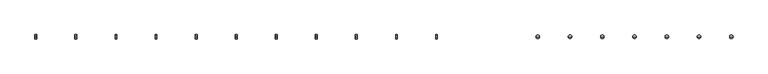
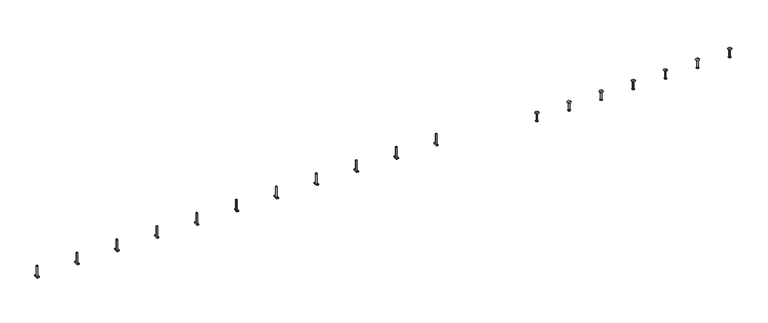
"""IFC4 building model written with IfcOpenShell, lengths in millimetres: fastener geometry, JTA-W JORDAHL® AnchorChannels : JTA-W L=6000 mm."""

from ifc_helpers import new_model, si_unit, frame, origin, place, context, project, spatial, polyline, circle_curve, source, transform, mapped, element, save
from ifc_brep_helpers import plane_surface, cylinder_surface, revolved_surface, advanced_brep


def fastener_fb3cec1f(model_context):
    return source(origin(), model_context, "Body", "AdvancedBrep", [
        advanced_brep(
        [(3468.8421053, 16.25, -3.0), (3468.8421053, -16.25, -3.0), (3468.8421053, -16.25, -11.0), (3468.8421053, 16.25, -11.0), (3454.8421053, 16.25, -3.0), (3454.8421053, 16.25, -11.0), (3454.8421053, -16.25, -11.0), (3454.8421053, -16.25, -3.0), (3466.8421053, 0.0, -3.0), (3456.8421053, 0.0, -3.0), (3456.8421053, 0.0, 77.0), (3466.8421053, 0.0, 77.0)],
        [
            (0, 1),
            (1, 2),
            (2, 3),
            (3, 0),
            (4, 5),
            (5, 6),
            (6, 7),
            (7, 4),
            (0, 4),
            (7, 1),
            (8, 9, circle_curve(frame((3461.8421053, 0.0, -3.0), z_axis=(0.0, 0.0, -1.0), x_axis=(1.0, 0.0, 0.0)), 5.0)),
            (9, 8, circle_curve(frame((3461.8421053, 0.0, -3.0), z_axis=(0.0, 0.0, -1.0), x_axis=(1.0, 0.0, 0.0)), 5.0)),
            (6, 2),
            (5, 3),
            (10, 11, circle_curve(frame((3461.8421053, 0.0, 77.0), z_axis=(0.0, 0.0, 1.0), x_axis=(1.0, 0.0, 0.0)), 5.0)),
            (11, 10, circle_curve(frame((3461.8421053, 0.0, 77.0), z_axis=(0.0, 0.0, 1.0), x_axis=(1.0, 0.0, 0.0)), 5.0)),
            (10, 9),
            (8, 11),
        ],
        [
            plane_surface(frame((3468.8421053, -16.25, -3.0), z_axis=(1.0, 0.0, 0.0), x_axis=(0.0, -1.0, 0.0))),
            plane_surface(frame((3454.8421053, -16.25, -3.0), z_axis=(-1.0, 0.0, 0.0), x_axis=(0.0, 1.0, 0.0))),
            plane_surface(frame((3468.8421053, 16.25, -3.0), z_axis=(0.0, 0.0, 1.0), x_axis=(-1.0, 0.0, 0.0))),
            plane_surface(frame((3468.8421053, -16.25, -3.0), z_axis=(0.0, -1.0, 0.0), x_axis=(-1.0, 0.0, 0.0))),
            plane_surface(frame((3468.8421053, -16.25, -11.0), z_axis=(0.0, 0.0, -1.0), x_axis=(-1.0, 0.0, 0.0))),
            plane_surface(frame((3468.8421053, 16.25, -11.0), z_axis=(0.0, 1.0, 0.0), x_axis=(-1.0, 0.0, 0.0))),
            plane_surface(frame((3466.8421053, 0.0, 77.0), z_axis=(0.0, 0.0, 1.0), x_axis=(0.0, 1.0, 0.0))),
            cylinder_surface(frame((3461.8421053, 0.0, -3.0), z_axis=(0.0, 0.0, 1.0), x_axis=(1.0, 0.0, 0.0)), 5.0),
        ],
        [
            (0, [[1, 2, 3, 4]]),
            (1, [[5, 6, 7, 8]]),
            (2, [[-1, 9, -8, 10], [11, 12]]),
            (3, [[-2, -10, -7, 13]]),
            (4, [[-3, -13, -6, 14]]),
            (5, [[-4, -14, -5, -9]]),
            (6, [[15, 16]]),
            (7, [[-15, 17, -11, 18]]),
            (7, [[-16, -18, -12, -17]]),
        ],
    ),
        advanced_brep(
        [(3160.9473684, 16.25, -3.0), (3160.9473684, -16.25, -3.0), (3160.9473684, -16.25, -11.0), (3160.9473684, 16.25, -11.0), (3146.9473684, 16.25, -3.0), (3146.9473684, 16.25, -11.0), (3146.9473684, -16.25, -11.0), (3146.9473684, -16.25, -3.0), (3158.9473684, 0.0, -3.0), (3148.9473684, 0.0, -3.0), (3148.9473684, 0.0, 77.0), (3158.9473684, 0.0, 77.0)],
        [
            (0, 1),
            (1, 2),
            (2, 3),
            (3, 0),
            (4, 5),
            (5, 6),
            (6, 7),
            (7, 4),
            (0, 4),
            (7, 1),
            (8, 9, circle_curve(frame((3153.9473684, 0.0, -3.0), z_axis=(0.0, 0.0, -1.0), x_axis=(1.0, 0.0, 0.0)), 5.0)),
            (9, 8, circle_curve(frame((3153.9473684, 0.0, -3.0), z_axis=(0.0, 0.0, -1.0), x_axis=(1.0, 0.0, 0.0)), 5.0)),
            (6, 2),
            (5, 3),
            (10, 11, circle_curve(frame((3153.9473684, 0.0, 77.0), z_axis=(0.0, 0.0, 1.0), x_axis=(1.0, 0.0, 0.0)), 5.0)),
            (11, 10, circle_curve(frame((3153.9473684, 0.0, 77.0), z_axis=(0.0, 0.0, 1.0), x_axis=(1.0, 0.0, 0.0)), 5.0)),
            (10, 9),
            (8, 11),
        ],
        [
            plane_surface(frame((3160.9473684, -16.25, -3.0), z_axis=(1.0, 0.0, 0.0), x_axis=(0.0, -1.0, 0.0))),
            plane_surface(frame((3146.9473684, -16.25, -3.0), z_axis=(-1.0, 0.0, 0.0), x_axis=(0.0, 1.0, 0.0))),
            plane_surface(frame((3160.9473684, 16.25, -3.0), z_axis=(0.0, 0.0, 1.0), x_axis=(-1.0, 0.0, 0.0))),
            plane_surface(frame((3160.9473684, -16.25, -3.0), z_axis=(0.0, -1.0, 0.0), x_axis=(-1.0, 0.0, 0.0))),
            plane_surface(frame((3160.9473684, -16.25, -11.0), z_axis=(0.0, 0.0, -1.0), x_axis=(-1.0, 0.0, 0.0))),
            plane_surface(frame((3160.9473684, 16.25, -11.0), z_axis=(0.0, 1.0, 0.0), x_axis=(-1.0, 0.0, 0.0))),
            plane_surface(frame((3158.9473684, 0.0, 77.0), z_axis=(0.0, 0.0, 1.0), x_axis=(0.0, 1.0, 0.0))),
            cylinder_surface(frame((3153.9473684, 0.0, -3.0), z_axis=(0.0, 0.0, 1.0), x_axis=(1.0, 0.0, 0.0)), 5.0),
        ],
        [
            (0, [[1, 2, 3, 4]]),
            (1, [[5, 6, 7, 8]]),
            (2, [[-1, 9, -8, 10], [11, 12]]),
            (3, [[-2, -10, -7, 13]]),
            (4, [[-3, -13, -6, 14]]),
            (5, [[-4, -14, -5, -9]]),
            (6, [[15, 16]]),
            (7, [[-15, 17, -11, 18]]),
            (7, [[-16, -18, -12, -17]]),
        ],
    ),
        advanced_brep(
        [(2853.0526316, 16.25, -3.0), (2853.0526316, -16.25, -3.0), (2853.0526316, -16.25, -11.0), (2853.0526316, 16.25, -11.0), (2839.0526316, 16.25, -3.0), (2839.0526316, 16.25, -11.0), (2839.0526316, -16.25, -11.0), (2839.0526316, -16.25, -3.0), (2851.0526316, 0.0, -3.0), (2841.0526316, 0.0, -3.0), (2841.0526316, 0.0, 77.0), (2851.0526316, 0.0, 77.0)],
        [
            (0, 1),
            (1, 2),
            (2, 3),
            (3, 0),
            (4, 5),
            (5, 6),
            (6, 7),
            (7, 4),
            (0, 4),
            (7, 1),
            (8, 9, circle_curve(frame((2846.0526316, 0.0, -3.0), z_axis=(0.0, 0.0, -1.0), x_axis=(1.0, 0.0, 0.0)), 5.0)),
            (9, 8, circle_curve(frame((2846.0526316, 0.0, -3.0), z_axis=(0.0, 0.0, -1.0), x_axis=(1.0, 0.0, 0.0)), 5.0)),
            (6, 2),
            (5, 3),
            (10, 11, circle_curve(frame((2846.0526316, 0.0, 77.0), z_axis=(0.0, 0.0, 1.0), x_axis=(1.0, 0.0, 0.0)), 5.0)),
            (11, 10, circle_curve(frame((2846.0526316, 0.0, 77.0), z_axis=(0.0, 0.0, 1.0), x_axis=(1.0, 0.0, 0.0)), 5.0)),
            (10, 9),
            (8, 11),
        ],
        [
            plane_surface(frame((2853.0526316, -16.25, -3.0), z_axis=(1.0, 0.0, 0.0), x_axis=(0.0, -1.0, 0.0))),
            plane_surface(frame((2839.0526316, -16.25, -3.0), z_axis=(-1.0, 0.0, 0.0), x_axis=(0.0, 1.0, 0.0))),
            plane_surface(frame((2853.0526316, 16.25, -3.0), z_axis=(0.0, 0.0, 1.0), x_axis=(-1.0, 0.0, 0.0))),
            plane_surface(frame((2853.0526316, -16.25, -3.0), z_axis=(0.0, -1.0, 0.0), x_axis=(-1.0, 0.0, 0.0))),
            plane_surface(frame((2853.0526316, -16.25, -11.0), z_axis=(0.0, 0.0, -1.0), x_axis=(-1.0, 0.0, 0.0))),
            plane_surface(frame((2853.0526316, 16.25, -11.0), z_axis=(0.0, 1.0, 0.0), x_axis=(-1.0, 0.0, 0.0))),
            plane_surface(frame((2851.0526316, 0.0, 77.0), z_axis=(0.0, 0.0, 1.0), x_axis=(0.0, 1.0, 0.0))),
            cylinder_surface(frame((2846.0526316, 0.0, -3.0), z_axis=(0.0, 0.0, 1.0), x_axis=(1.0, 0.0, 0.0)), 5.0),
        ],
        [
            (0, [[1, 2, 3, 4]]),
            (1, [[5, 6, 7, 8]]),
            (2, [[-1, 9, -8, 10], [11, 12]]),
            (3, [[-2, -10, -7, 13]]),
            (4, [[-3, -13, -6, 14]]),
            (5, [[-4, -14, -5, -9]]),
            (6, [[15, 16]]),
            (7, [[-15, 17, -11, 18]]),
            (7, [[-16, -18, -12, -17]]),
        ],
    ),
        advanced_brep(
        [(2545.1578947, 16.25, -3.0), (2545.1578947, -16.25, -3.0), (2545.1578947, -16.25, -11.0), (2545.1578947, 16.25, -11.0), (2531.1578947, 16.25, -3.0), (2531.1578947, 16.25, -11.0), (2531.1578947, -16.25, -11.0), (2531.1578947, -16.25, -3.0), (2543.1578947, 0.0, -3.0), (2533.1578947, 0.0, -3.0), (2533.1578947, 0.0, 77.0), (2543.1578947, 0.0, 77.0)],
        [
            (0, 1),
            (1, 2),
            (2, 3),
            (3, 0),
            (4, 5),
            (5, 6),
            (6, 7),
            (7, 4),
            (0, 4),
            (7, 1),
            (8, 9, circle_curve(frame((2538.1578947, 0.0, -3.0), z_axis=(0.0, 0.0, -1.0), x_axis=(1.0, 0.0, 0.0)), 5.0)),
            (9, 8, circle_curve(frame((2538.1578947, 0.0, -3.0), z_axis=(0.0, 0.0, -1.0), x_axis=(1.0, 0.0, 0.0)), 5.0)),
            (6, 2),
            (5, 3),
            (10, 11, circle_curve(frame((2538.1578947, 0.0, 77.0), z_axis=(0.0, 0.0, 1.0), x_axis=(1.0, 0.0, 0.0)), 5.0)),
            (11, 10, circle_curve(frame((2538.1578947, 0.0, 77.0), z_axis=(0.0, 0.0, 1.0), x_axis=(1.0, 0.0, 0.0)), 5.0)),
            (10, 9),
            (8, 11),
        ],
        [
            plane_surface(frame((2545.1578947, -16.25, -3.0), z_axis=(1.0, 0.0, 0.0), x_axis=(0.0, -1.0, 0.0))),
            plane_surface(frame((2531.1578947, -16.25, -3.0), z_axis=(-1.0, 0.0, 0.0), x_axis=(0.0, 1.0, 0.0))),
            plane_surface(frame((2545.1578947, 16.25, -3.0), z_axis=(0.0, 0.0, 1.0), x_axis=(-1.0, 0.0, 0.0))),
            plane_surface(frame((2545.1578947, -16.25, -3.0), z_axis=(0.0, -1.0, 0.0), x_axis=(-1.0, 0.0, 0.0))),
            plane_surface(frame((2545.1578947, -16.25, -11.0), z_axis=(0.0, 0.0, -1.0), x_axis=(-1.0, 0.0, 0.0))),
            plane_surface(frame((2545.1578947, 16.25, -11.0), z_axis=(0.0, 1.0, 0.0), x_axis=(-1.0, 0.0, 0.0))),
            plane_surface(frame((2543.1578947, 0.0, 77.0), z_axis=(0.0, 0.0, 1.0), x_axis=(0.0, 1.0, 0.0))),
            cylinder_surface(frame((2538.1578947, 0.0, -3.0), z_axis=(0.0, 0.0, 1.0), x_axis=(1.0, 0.0, 0.0)), 5.0),
        ],
        [
            (0, [[1, 2, 3, 4]]),
            (1, [[5, 6, 7, 8]]),
            (2, [[-1, 9, -8, 10], [11, 12]]),
            (3, [[-2, -10, -7, 13]]),
            (4, [[-3, -13, -6, 14]]),
            (5, [[-4, -14, -5, -9]]),
            (6, [[15, 16]]),
            (7, [[-15, 17, -11, 18]]),
            (7, [[-16, -18, -12, -17]]),
        ],
    ),
        advanced_brep(
        [(2237.2631579, 16.25, -3.0), (2237.2631579, -16.25, -3.0), (2237.2631579, -16.25, -11.0), (2237.2631579, 16.25, -11.0), (2223.2631579, 16.25, -3.0), (2223.2631579, 16.25, -11.0), (2223.2631579, -16.25, -11.0), (2223.2631579, -16.25, -3.0), (2235.2631579, 0.0, -3.0), (2225.2631579, 0.0, -3.0), (2225.2631579, 0.0, 77.0), (2235.2631579, 0.0, 77.0)],
        [
            (0, 1),
            (1, 2),
            (2, 3),
            (3, 0),
            (4, 5),
            (5, 6),
            (6, 7),
            (7, 4),
            (0, 4),
            (7, 1),
            (8, 9, circle_curve(frame((2230.2631579, 0.0, -3.0), z_axis=(0.0, 0.0, -1.0), x_axis=(1.0, 0.0, 0.0)), 5.0)),
            (9, 8, circle_curve(frame((2230.2631579, 0.0, -3.0), z_axis=(0.0, 0.0, -1.0), x_axis=(1.0, 0.0, 0.0)), 5.0)),
            (6, 2),
            (5, 3),
            (10, 11, circle_curve(frame((2230.2631579, 0.0, 77.0), z_axis=(0.0, 0.0, 1.0), x_axis=(1.0, 0.0, 0.0)), 5.0)),
            (11, 10, circle_curve(frame((2230.2631579, 0.0, 77.0), z_axis=(0.0, 0.0, 1.0), x_axis=(1.0, 0.0, 0.0)), 5.0)),
            (10, 9),
            (8, 11),
        ],
        [
            plane_surface(frame((2237.2631579, -16.25, -3.0), z_axis=(1.0, 0.0, 0.0), x_axis=(0.0, -1.0, 0.0))),
            plane_surface(frame((2223.2631579, -16.25, -3.0), z_axis=(-1.0, 0.0, 0.0), x_axis=(0.0, 1.0, 0.0))),
            plane_surface(frame((2237.2631579, 16.25, -3.0), z_axis=(0.0, 0.0, 1.0), x_axis=(-1.0, 0.0, 0.0))),
            plane_surface(frame((2237.2631579, -16.25, -3.0), z_axis=(0.0, -1.0, 0.0), x_axis=(-1.0, 0.0, 0.0))),
            plane_surface(frame((2237.2631579, -16.25, -11.0), z_axis=(0.0, 0.0, -1.0), x_axis=(-1.0, 0.0, 0.0))),
            plane_surface(frame((2237.2631579, 16.25, -11.0), z_axis=(0.0, 1.0, 0.0), x_axis=(-1.0, 0.0, 0.0))),
            plane_surface(frame((2235.2631579, 0.0, 77.0), z_axis=(0.0, 0.0, 1.0), x_axis=(0.0, 1.0, 0.0))),
            cylinder_surface(frame((2230.2631579, 0.0, -3.0), z_axis=(0.0, 0.0, 1.0), x_axis=(1.0, 0.0, 0.0)), 5.0),
        ],
        [
            (0, [[1, 2, 3, 4]]),
            (1, [[5, 6, 7, 8]]),
            (2, [[-1, 9, -8, 10], [11, 12]]),
            (3, [[-2, -10, -7, 13]]),
            (4, [[-3, -13, -6, 14]]),
            (5, [[-4, -14, -5, -9]]),
            (6, [[15, 16]]),
            (7, [[-15, 17, -11, 18]]),
            (7, [[-16, -18, -12, -17]]),
        ],
    ),
        advanced_brep(
        [(1929.3684211, 16.25, -3.0), (1929.3684211, -16.25, -3.0), (1929.3684211, -16.25, -11.0), (1929.3684211, 16.25, -11.0), (1915.3684211, 16.25, -3.0), (1915.3684211, 16.25, -11.0), (1915.3684211, -16.25, -11.0), (1915.3684211, -16.25, -3.0), (1927.3684211, 0.0, -3.0), (1917.3684211, 0.0, -3.0), (1917.3684211, 0.0, 77.0), (1927.3684211, 0.0, 77.0)],
        [
            (0, 1),
            (1, 2),
            (2, 3),
            (3, 0),
            (4, 5),
            (5, 6),
            (6, 7),
            (7, 4),
            (0, 4),
            (7, 1),
            (8, 9, circle_curve(frame((1922.3684211, 0.0, -3.0), z_axis=(0.0, 0.0, -1.0), x_axis=(1.0, 0.0, 0.0)), 5.0)),
            (9, 8, circle_curve(frame((1922.3684211, 0.0, -3.0), z_axis=(0.0, 0.0, -1.0), x_axis=(1.0, 0.0, 0.0)), 5.0)),
            (6, 2),
            (5, 3),
            (10, 11, circle_curve(frame((1922.3684211, 0.0, 77.0), z_axis=(0.0, 0.0, 1.0), x_axis=(1.0, 0.0, 0.0)), 5.0)),
            (11, 10, circle_curve(frame((1922.3684211, 0.0, 77.0), z_axis=(0.0, 0.0, 1.0), x_axis=(1.0, 0.0, 0.0)), 5.0)),
            (10, 9),
            (8, 11),
        ],
        [
            plane_surface(frame((1929.3684211, -16.25, -3.0), z_axis=(1.0, 0.0, 0.0), x_axis=(0.0, -1.0, 0.0))),
            plane_surface(frame((1915.3684211, -16.25, -3.0), z_axis=(-1.0, 0.0, 0.0), x_axis=(0.0, 1.0, 0.0))),
            plane_surface(frame((1929.3684211, 16.25, -3.0), z_axis=(0.0, 0.0, 1.0), x_axis=(-1.0, 0.0, 0.0))),
            plane_surface(frame((1929.3684211, -16.25, -3.0), z_axis=(0.0, -1.0, 0.0), x_axis=(-1.0, 0.0, 0.0))),
            plane_surface(frame((1929.3684211, -16.25, -11.0), z_axis=(0.0, 0.0, -1.0), x_axis=(-1.0, 0.0, 0.0))),
            plane_surface(frame((1929.3684211, 16.25, -11.0), z_axis=(0.0, 1.0, 0.0), x_axis=(-1.0, 0.0, 0.0))),
            plane_surface(frame((1927.3684211, 0.0, 77.0), z_axis=(0.0, 0.0, 1.0), x_axis=(0.0, 1.0, 0.0))),
            cylinder_surface(frame((1922.3684211, 0.0, -3.0), z_axis=(0.0, 0.0, 1.0), x_axis=(1.0, 0.0, 0.0)), 5.0),
        ],
        [
            (0, [[1, 2, 3, 4]]),
            (1, [[5, 6, 7, 8]]),
            (2, [[-1, 9, -8, 10], [11, 12]]),
            (3, [[-2, -10, -7, 13]]),
            (4, [[-3, -13, -6, 14]]),
            (5, [[-4, -14, -5, -9]]),
            (6, [[15, 16]]),
            (7, [[-15, 17, -11, 18]]),
            (7, [[-16, -18, -12, -17]]),
        ],
    ),
        advanced_brep(
        [(1621.4736842, 16.25, -3.0), (1621.4736842, -16.25, -3.0), (1621.4736842, -16.25, -11.0), (1621.4736842, 16.25, -11.0), (1607.4736842, 16.25, -3.0), (1607.4736842, 16.25, -11.0), (1607.4736842, -16.25, -11.0), (1607.4736842, -16.25, -3.0), (1619.4736842, 0.0, -3.0), (1609.4736842, 0.0, -3.0), (1609.4736842, 0.0, 77.0), (1619.4736842, 0.0, 77.0)],
        [
            (0, 1),
            (1, 2),
            (2, 3),
            (3, 0),
            (4, 5),
            (5, 6),
            (6, 7),
            (7, 4),
            (0, 4),
            (7, 1),
            (8, 9, circle_curve(frame((1614.4736842, 0.0, -3.0), z_axis=(0.0, 0.0, -1.0), x_axis=(1.0, 0.0, 0.0)), 5.0)),
            (9, 8, circle_curve(frame((1614.4736842, 0.0, -3.0), z_axis=(0.0, 0.0, -1.0), x_axis=(1.0, 0.0, 0.0)), 5.0)),
            (6, 2),
            (5, 3),
            (10, 11, circle_curve(frame((1614.4736842, 0.0, 77.0), z_axis=(0.0, 0.0, 1.0), x_axis=(1.0, 0.0, 0.0)), 5.0)),
            (11, 10, circle_curve(frame((1614.4736842, 0.0, 77.0), z_axis=(0.0, 0.0, 1.0), x_axis=(1.0, 0.0, 0.0)), 5.0)),
            (10, 9),
            (8, 11),
        ],
        [
            plane_surface(frame((1621.4736842, -16.25, -3.0), z_axis=(1.0, 0.0, 0.0), x_axis=(0.0, -1.0, 0.0))),
            plane_surface(frame((1607.4736842, -16.25, -3.0), z_axis=(-1.0, 0.0, 0.0), x_axis=(0.0, 1.0, 0.0))),
            plane_surface(frame((1621.4736842, 16.25, -3.0), z_axis=(0.0, 0.0, 1.0), x_axis=(-1.0, 0.0, 0.0))),
            plane_surface(frame((1621.4736842, -16.25, -3.0), z_axis=(0.0, -1.0, 0.0), x_axis=(-1.0, 0.0, 0.0))),
            plane_surface(frame((1621.4736842, -16.25, -11.0), z_axis=(0.0, 0.0, -1.0), x_axis=(-1.0, 0.0, 0.0))),
            plane_surface(frame((1621.4736842, 16.25, -11.0), z_axis=(0.0, 1.0, 0.0), x_axis=(-1.0, 0.0, 0.0))),
            plane_surface(frame((1619.4736842, 0.0, 77.0), z_axis=(0.0, 0.0, 1.0), x_axis=(0.0, 1.0, 0.0))),
            cylinder_surface(frame((1614.4736842, 0.0, -3.0), z_axis=(0.0, 0.0, 1.0), x_axis=(1.0, 0.0, 0.0)), 5.0),
        ],
        [
            (0, [[1, 2, 3, 4]]),
            (1, [[5, 6, 7, 8]]),
            (2, [[-1, 9, -8, 10], [11, 12]]),
            (3, [[-2, -10, -7, 13]]),
            (4, [[-3, -13, -6, 14]]),
            (5, [[-4, -14, -5, -9]]),
            (6, [[15, 16]]),
            (7, [[-15, 17, -11, 18]]),
            (7, [[-16, -18, -12, -17]]),
        ],
    ),
        advanced_brep(
        [(1313.5789474, 16.25, -3.0), (1313.5789474, -16.25, -3.0), (1313.5789474, -16.25, -11.0), (1313.5789474, 16.25, -11.0), (1299.5789474, 16.25, -3.0), (1299.5789474, 16.25, -11.0), (1299.5789474, -16.25, -11.0), (1299.5789474, -16.25, -3.0), (1311.5789474, 0.0, -3.0), (1301.5789474, 0.0, -3.0), (1301.5789474, 0.0, 77.0), (1311.5789474, 0.0, 77.0)],
        [
            (0, 1),
            (1, 2),
            (2, 3),
            (3, 0),
            (4, 5),
            (5, 6),
            (6, 7),
            (7, 4),
            (0, 4),
            (7, 1),
            (8, 9, circle_curve(frame((1306.5789474, 0.0, -3.0), z_axis=(0.0, 0.0, -1.0), x_axis=(1.0, 0.0, 0.0)), 5.0)),
            (9, 8, circle_curve(frame((1306.5789474, 0.0, -3.0), z_axis=(0.0, 0.0, -1.0), x_axis=(1.0, 0.0, 0.0)), 5.0)),
            (6, 2),
            (5, 3),
            (10, 11, circle_curve(frame((1306.5789474, 0.0, 77.0), z_axis=(0.0, 0.0, 1.0), x_axis=(1.0, 0.0, 0.0)), 5.0)),
            (11, 10, circle_curve(frame((1306.5789474, 0.0, 77.0), z_axis=(0.0, 0.0, 1.0), x_axis=(1.0, 0.0, 0.0)), 5.0)),
            (10, 9),
            (8, 11),
        ],
        [
            plane_surface(frame((1313.5789474, -16.25, -3.0), z_axis=(1.0, 0.0, 0.0), x_axis=(0.0, -1.0, 0.0))),
            plane_surface(frame((1299.5789474, -16.25, -3.0), z_axis=(-1.0, 0.0, 0.0), x_axis=(0.0, 1.0, 0.0))),
            plane_surface(frame((1313.5789474, 16.25, -3.0), z_axis=(0.0, 0.0, 1.0), x_axis=(-1.0, 0.0, 0.0))),
            plane_surface(frame((1313.5789474, -16.25, -3.0), z_axis=(0.0, -1.0, 0.0), x_axis=(-1.0, 0.0, 0.0))),
            plane_surface(frame((1313.5789474, -16.25, -11.0), z_axis=(0.0, 0.0, -1.0), x_axis=(-1.0, 0.0, 0.0))),
            plane_surface(frame((1313.5789474, 16.25, -11.0), z_axis=(0.0, 1.0, 0.0), x_axis=(-1.0, 0.0, 0.0))),
            plane_surface(frame((1311.5789474, 0.0, 77.0), z_axis=(0.0, 0.0, 1.0), x_axis=(0.0, 1.0, 0.0))),
            cylinder_surface(frame((1306.5789474, 0.0, -3.0), z_axis=(0.0, 0.0, 1.0), x_axis=(1.0, 0.0, 0.0)), 5.0),
        ],
        [
            (0, [[1, 2, 3, 4]]),
            (1, [[5, 6, 7, 8]]),
            (2, [[-1, 9, -8, 10], [11, 12]]),
            (3, [[-2, -10, -7, 13]]),
            (4, [[-3, -13, -6, 14]]),
            (5, [[-4, -14, -5, -9]]),
            (6, [[15, 16]]),
            (7, [[-15, 17, -11, 18]]),
            (7, [[-16, -18, -12, -17]]),
        ],
    ),
        advanced_brep(
        [(1005.6842105, 16.25, -3.0), (1005.6842105, -16.25, -3.0), (1005.6842105, -16.25, -11.0), (1005.6842105, 16.25, -11.0), (991.6842105, 16.25, -3.0), (991.6842105, 16.25, -11.0), (991.6842105, -16.25, -11.0), (991.6842105, -16.25, -3.0), (1003.6842105, 0.0, -3.0), (993.6842105, 0.0, -3.0), (993.6842105, 0.0, 77.0), (1003.6842105, 0.0, 77.0)],
        [
            (0, 1),
            (1, 2),
            (2, 3),
            (3, 0),
            (4, 5),
            (5, 6),
            (6, 7),
            (7, 4),
            (0, 4),
            (7, 1),
            (8, 9, circle_curve(frame((998.6842105, 0.0, -3.0), z_axis=(0.0, 0.0, -1.0), x_axis=(1.0, 0.0, 0.0)), 5.0)),
            (9, 8, circle_curve(frame((998.6842105, 0.0, -3.0), z_axis=(0.0, 0.0, -1.0), x_axis=(1.0, 0.0, 0.0)), 5.0)),
            (6, 2),
            (5, 3),
            (10, 11, circle_curve(frame((998.6842105, 0.0, 77.0), z_axis=(0.0, 0.0, 1.0), x_axis=(1.0, 0.0, 0.0)), 5.0)),
            (11, 10, circle_curve(frame((998.6842105, 0.0, 77.0), z_axis=(0.0, 0.0, 1.0), x_axis=(1.0, 0.0, 0.0)), 5.0)),
            (10, 9),
            (8, 11),
        ],
        [
            plane_surface(frame((1005.6842105, -16.25, -3.0), z_axis=(1.0, 0.0, 0.0), x_axis=(0.0, -1.0, 0.0))),
            plane_surface(frame((991.6842105, -16.25, -3.0), z_axis=(-1.0, 0.0, 0.0), x_axis=(0.0, 1.0, 0.0))),
            plane_surface(frame((1005.6842105, 16.25, -3.0), z_axis=(0.0, 0.0, 1.0), x_axis=(-1.0, 0.0, 0.0))),
            plane_surface(frame((1005.6842105, -16.25, -3.0), z_axis=(0.0, -1.0, 0.0), x_axis=(-1.0, 0.0, 0.0))),
            plane_surface(frame((1005.6842105, -16.25, -11.0), z_axis=(0.0, 0.0, -1.0), x_axis=(-1.0, 0.0, 0.0))),
            plane_surface(frame((1005.6842105, 16.25, -11.0), z_axis=(0.0, 1.0, 0.0), x_axis=(-1.0, 0.0, 0.0))),
            plane_surface(frame((1003.6842105, 0.0, 77.0), z_axis=(0.0, 0.0, 1.0), x_axis=(0.0, 1.0, 0.0))),
            cylinder_surface(frame((998.6842105, 0.0, -3.0), z_axis=(0.0, 0.0, 1.0), x_axis=(1.0, 0.0, 0.0)), 5.0),
        ],
        [
            (0, [[1, 2, 3, 4]]),
            (1, [[5, 6, 7, 8]]),
            (2, [[-1, 9, -8, 10], [11, 12]]),
            (3, [[-2, -10, -7, 13]]),
            (4, [[-3, -13, -6, 14]]),
            (5, [[-4, -14, -5, -9]]),
            (6, [[15, 16]]),
            (7, [[-15, 17, -11, 18]]),
            (7, [[-16, -18, -12, -17]]),
        ],
    ),
        advanced_brep(
        [(697.7894737, 16.25, -3.0), (697.7894737, -16.25, -3.0), (697.7894737, -16.25, -11.0), (697.7894737, 16.25, -11.0), (683.7894737, 16.25, -3.0), (683.7894737, 16.25, -11.0), (683.7894737, -16.25, -11.0), (683.7894737, -16.25, -3.0), (695.7894737, 0.0, -3.0), (685.7894737, 0.0, -3.0), (685.7894737, 0.0, 77.0), (695.7894737, 0.0, 77.0)],
        [
            (0, 1),
            (1, 2),
            (2, 3),
            (3, 0),
            (4, 5),
            (5, 6),
            (6, 7),
            (7, 4),
            (0, 4),
            (7, 1),
            (8, 9, circle_curve(frame((690.7894737, 0.0, -3.0), z_axis=(0.0, 0.0, -1.0), x_axis=(1.0, 0.0, 0.0)), 5.0)),
            (9, 8, circle_curve(frame((690.7894737, 0.0, -3.0), z_axis=(0.0, 0.0, -1.0), x_axis=(1.0, 0.0, 0.0)), 5.0)),
            (6, 2),
            (5, 3),
            (10, 11, circle_curve(frame((690.7894737, 0.0, 77.0), z_axis=(0.0, 0.0, 1.0), x_axis=(1.0, 0.0, 0.0)), 5.0)),
            (11, 10, circle_curve(frame((690.7894737, 0.0, 77.0), z_axis=(0.0, 0.0, 1.0), x_axis=(1.0, 0.0, 0.0)), 5.0)),
            (10, 9),
            (8, 11),
        ],
        [
            plane_surface(frame((697.7894737, -16.25, -3.0), z_axis=(1.0, 0.0, 0.0), x_axis=(0.0, -1.0, 0.0))),
            plane_surface(frame((683.7894737, -16.25, -3.0), z_axis=(-1.0, 0.0, 0.0), x_axis=(0.0, 1.0, 0.0))),
            plane_surface(frame((697.7894737, 16.25, -3.0), z_axis=(0.0, 0.0, 1.0), x_axis=(-1.0, 0.0, 0.0))),
            plane_surface(frame((697.7894737, -16.25, -3.0), z_axis=(0.0, -1.0, 0.0), x_axis=(-1.0, 0.0, 0.0))),
            plane_surface(frame((697.7894737, -16.25, -11.0), z_axis=(0.0, 0.0, -1.0), x_axis=(-1.0, 0.0, 0.0))),
            plane_surface(frame((697.7894737, 16.25, -11.0), z_axis=(0.0, 1.0, 0.0), x_axis=(-1.0, 0.0, 0.0))),
            plane_surface(frame((695.7894737, 0.0, 77.0), z_axis=(0.0, 0.0, 1.0), x_axis=(0.0, 1.0, 0.0))),
            cylinder_surface(frame((690.7894737, 0.0, -3.0), z_axis=(0.0, 0.0, 1.0), x_axis=(1.0, 0.0, 0.0)), 5.0),
        ],
        [
            (0, [[1, 2, 3, 4]]),
            (1, [[5, 6, 7, 8]]),
            (2, [[-1, 9, -8, 10], [11, 12]]),
            (3, [[-2, -10, -7, 13]]),
            (4, [[-3, -13, -6, 14]]),
            (5, [[-4, -14, -5, -9]]),
            (6, [[15, 16]]),
            (7, [[-15, 17, -11, 18]]),
            (7, [[-16, -18, -12, -17]]),
        ],
    ),
        advanced_brep(
        [(389.8947368, 16.25, -3.0), (389.8947368, -16.25, -3.0), (389.8947368, -16.25, -11.0), (389.8947368, 16.25, -11.0), (375.8947368, 16.25, -3.0), (375.8947368, 16.25, -11.0), (375.8947368, -16.25, -11.0), (375.8947368, -16.25, -3.0), (387.8947368, 0.0, -3.0), (377.8947368, 0.0, -3.0), (377.8947368, 0.0, 77.0), (387.8947368, 0.0, 77.0)],
        [
            (0, 1),
            (1, 2),
            (2, 3),
            (3, 0),
            (4, 5),
            (5, 6),
            (6, 7),
            (7, 4),
            (0, 4),
            (7, 1),
            (8, 9, circle_curve(frame((382.8947368, 0.0, -3.0), z_axis=(0.0, 0.0, -1.0), x_axis=(1.0, 0.0, 0.0)), 5.0)),
            (9, 8, circle_curve(frame((382.8947368, 0.0, -3.0), z_axis=(0.0, 0.0, -1.0), x_axis=(1.0, 0.0, 0.0)), 5.0)),
            (6, 2),
            (5, 3),
            (10, 11, circle_curve(frame((382.8947368, 0.0, 77.0), z_axis=(0.0, 0.0, 1.0), x_axis=(1.0, 0.0, 0.0)), 5.0)),
            (11, 10, circle_curve(frame((382.8947368, 0.0, 77.0), z_axis=(0.0, 0.0, 1.0), x_axis=(1.0, 0.0, 0.0)), 5.0)),
            (10, 9),
            (8, 11),
        ],
        [
            plane_surface(frame((389.8947368, -16.25, -3.0), z_axis=(1.0, 0.0, 0.0), x_axis=(0.0, -1.0, 0.0))),
            plane_surface(frame((375.8947368, -16.25, -3.0), z_axis=(-1.0, 0.0, 0.0), x_axis=(0.0, 1.0, 0.0))),
            plane_surface(frame((389.8947368, 16.25, -3.0), z_axis=(0.0, 0.0, 1.0), x_axis=(-1.0, 0.0, 0.0))),
            plane_surface(frame((389.8947368, -16.25, -3.0), z_axis=(0.0, -1.0, 0.0), x_axis=(-1.0, 0.0, 0.0))),
            plane_surface(frame((389.8947368, -16.25, -11.0), z_axis=(0.0, 0.0, -1.0), x_axis=(-1.0, 0.0, 0.0))),
            plane_surface(frame((389.8947368, 16.25, -11.0), z_axis=(0.0, 1.0, 0.0), x_axis=(-1.0, 0.0, 0.0))),
            plane_surface(frame((387.8947368, 0.0, 77.0), z_axis=(0.0, 0.0, 1.0), x_axis=(0.0, 1.0, 0.0))),
            cylinder_surface(frame((382.8947368, 0.0, -3.0), z_axis=(0.0, 0.0, 1.0), x_axis=(1.0, 0.0, 0.0)), 5.0),
        ],
        [
            (0, [[1, 2, 3, 4]]),
            (1, [[5, 6, 7, 8]]),
            (2, [[-1, 9, -8, 10], [11, 12]]),
            (3, [[-2, -10, -7, 13]]),
            (4, [[-3, -13, -6, 14]]),
            (5, [[-4, -14, -5, -9]]),
            (6, [[15, 16]]),
            (7, [[-15, 17, -11, 18]]),
            (7, [[-16, -18, -12, -17]]),
        ],
    ),
        advanced_brep(
        [(5727.0833333, 0.0, -22.0), (5740.5833333, 0.0, -22.0), (5713.5833333, 0.0, -22.0), (5718.5833333, 0.0, -90.0), (5735.5833333, 0.0, -90.0), (5727.0833333, 0.0, -90.0), (5718.5833333, 0.0, -88.0), (5735.5833333, 0.0, -88.0), (5722.5833333, 0.0, -85.6905989), (5731.5833333, 0.0, -85.6905989), (5722.5833333, 0.0, -24.5), (5731.5833333, 0.0, -24.5)],
        [
            (0, 1),
            (1, 2, circle_curve(frame((5727.0833333, 0.0, -22.0), z_axis=(0.0, 0.0, 1.0), x_axis=(1.0, 0.0, 0.0)), 13.5)),
            (2, 0),
            (2, 1, circle_curve(frame((5727.0833333, 0.0, -22.0), z_axis=(0.0, 0.0, 1.0), x_axis=(1.0, 0.0, 0.0)), 13.5)),
            (3, 4, circle_curve(frame((5727.0833333, 0.0, -90.0), z_axis=(0.0, 0.0, -1.0), x_axis=(1.0, 0.0, 0.0)), 8.5)),
            (4, 5),
            (5, 3),
            (4, 3, circle_curve(frame((5727.0833333, 0.0, -90.0), z_axis=(0.0, 0.0, -1.0), x_axis=(1.0, 0.0, 0.0)), 8.5)),
            (6, 7, circle_curve(frame((5727.0833333, 0.0, -88.0), z_axis=(0.0, 0.0, -1.0), x_axis=(1.0, 0.0, 0.0)), 8.5)),
            (7, 4),
            (3, 6),
            (7, 6, circle_curve(frame((5727.0833333, 0.0, -88.0), z_axis=(0.0, 0.0, -1.0), x_axis=(1.0, 0.0, 0.0)), 8.5)),
            (8, 9, circle_curve(frame((5727.0833333, 0.0, -85.6905989), z_axis=(0.0, 0.0, -1.0), x_axis=(1.0, 0.0, 0.0)), 4.5)),
            (9, 7),
            (6, 8),
            (9, 8, circle_curve(frame((5727.0833333, 0.0, -85.6905989), z_axis=(0.0, 0.0, -1.0), x_axis=(1.0, 0.0, 0.0)), 4.5)),
            (10, 11, circle_curve(frame((5727.0833333, 0.0, -24.5), z_axis=(0.0, 0.0, -1.0), x_axis=(1.0, 0.0, 0.0)), 4.5)),
            (11, 9),
            (8, 10),
            (11, 10, circle_curve(frame((5727.0833333, 0.0, -24.5), z_axis=(0.0, 0.0, -1.0), x_axis=(1.0, 0.0, 0.0)), 4.5)),
            (1, 11),
            (10, 2),
        ],
        [
            plane_surface(frame((5727.0833333, 0.0, -22.0), z_axis=(0.0, 0.0, 1.0), x_axis=(1.0, 0.0, 0.0))),
            plane_surface(frame((5727.0833333, 0.0, -90.0), z_axis=(0.0, 0.0, -1.0), x_axis=(1.0, 0.0, 0.0))),
            cylinder_surface(frame((5727.0833333, 0.0, 2282.3150031), z_axis=(0.0, 0.0, 1.0), x_axis=(1.0, 0.0, 0.0)), 8.5),
            revolved_surface(polyline([(5735.5833333, 0.0, -88.0), (5731.5833333, 0.0, -85.6905989)]), (5727.0833333, 0.0, 2282.3150031), (0.0, 0.0, 1.0)),
            cylinder_surface(frame((5727.0833333, 0.0, 2282.3150031), z_axis=(0.0, 0.0, 1.0), x_axis=(1.0, 0.0, 0.0)), 4.5),
            revolved_surface(polyline([(5731.5833333, 0.0, -24.5), (5740.5833333, 0.0, -22.0)]), (5727.0833333, 0.0, 2282.3150031), (0.0, 0.0, 1.0)),
        ],
        [
            (0, [[1, 2, 3]]),
            (0, [[-3, 4, -1]]),
            (1, [[5, 6, 7]]),
            (1, [[8, -7, -6]]),
            (2, [[9, 10, -5, 11]]),
            (2, [[12, -11, -8, -10]]),
            (3, [[13, 14, -9, 15]]),
            (3, [[16, -15, -12, -14]]),
            (4, [[17, 18, -13, 19]]),
            (4, [[20, -19, -16, -18]]),
            (5, [[-2, 21, -17, 22]]),
            (5, [[-4, -22, -20, -21]]),
        ],
    ),
        advanced_brep(
        [(5479.1666667, 0.0, -22.0), (5492.6666667, 0.0, -22.0), (5465.6666667, 0.0, -22.0), (5470.6666667, 0.0, -90.0), (5487.6666667, 0.0, -90.0), (5479.1666667, 0.0, -90.0), (5470.6666667, 0.0, -88.0), (5487.6666667, 0.0, -88.0), (5474.6666667, 0.0, -85.6905989), (5483.6666667, 0.0, -85.6905989), (5474.6666667, 0.0, -24.5), (5483.6666667, 0.0, -24.5)],
        [
            (0, 1),
            (1, 2, circle_curve(frame((5479.1666667, 0.0, -22.0), z_axis=(0.0, 0.0, 1.0), x_axis=(1.0, 0.0, 0.0)), 13.5)),
            (2, 0),
            (2, 1, circle_curve(frame((5479.1666667, 0.0, -22.0), z_axis=(0.0, 0.0, 1.0), x_axis=(1.0, 0.0, 0.0)), 13.5)),
            (3, 4, circle_curve(frame((5479.1666667, 0.0, -90.0), z_axis=(0.0, 0.0, -1.0), x_axis=(1.0, 0.0, 0.0)), 8.5)),
            (4, 5),
            (5, 3),
            (4, 3, circle_curve(frame((5479.1666667, 0.0, -90.0), z_axis=(0.0, 0.0, -1.0), x_axis=(1.0, 0.0, 0.0)), 8.5)),
            (6, 7, circle_curve(frame((5479.1666667, 0.0, -88.0), z_axis=(0.0, 0.0, -1.0), x_axis=(1.0, 0.0, 0.0)), 8.5)),
            (7, 4),
            (3, 6),
            (7, 6, circle_curve(frame((5479.1666667, 0.0, -88.0), z_axis=(0.0, 0.0, -1.0), x_axis=(1.0, 0.0, 0.0)), 8.5)),
            (8, 9, circle_curve(frame((5479.1666667, 0.0, -85.6905989), z_axis=(0.0, 0.0, -1.0), x_axis=(1.0, 0.0, 0.0)), 4.5)),
            (9, 7),
            (6, 8),
            (9, 8, circle_curve(frame((5479.1666667, 0.0, -85.6905989), z_axis=(0.0, 0.0, -1.0), x_axis=(1.0, 0.0, 0.0)), 4.5)),
            (10, 11, circle_curve(frame((5479.1666667, 0.0, -24.5), z_axis=(0.0, 0.0, -1.0), x_axis=(1.0, 0.0, 0.0)), 4.5)),
            (11, 9),
            (8, 10),
            (11, 10, circle_curve(frame((5479.1666667, 0.0, -24.5), z_axis=(0.0, 0.0, -1.0), x_axis=(1.0, 0.0, 0.0)), 4.5)),
            (1, 11),
            (10, 2),
        ],
        [
            plane_surface(frame((5479.1666667, 0.0, -22.0), z_axis=(0.0, 0.0, 1.0), x_axis=(1.0, 0.0, 0.0))),
            plane_surface(frame((5479.1666667, 0.0, -90.0), z_axis=(0.0, 0.0, -1.0), x_axis=(1.0, 0.0, 0.0))),
            cylinder_surface(frame((5479.1666667, 0.0, 2282.3150031), z_axis=(0.0, 0.0, 1.0), x_axis=(1.0, 0.0, 0.0)), 8.5),
            revolved_surface(polyline([(5487.6666667, 0.0, -88.0), (5483.6666667, 0.0, -85.6905989)]), (5479.1666667, 0.0, 2282.3150031), (0.0, 0.0, 1.0)),
            cylinder_surface(frame((5479.1666667, 0.0, 2282.3150031), z_axis=(0.0, 0.0, 1.0), x_axis=(1.0, 0.0, 0.0)), 4.5),
            revolved_surface(polyline([(5483.6666667, 0.0, -24.5), (5492.6666667, 0.0, -22.0)]), (5479.1666667, 0.0, 2282.3150031), (0.0, 0.0, 1.0)),
        ],
        [
            (0, [[1, 2, 3]]),
            (0, [[-3, 4, -1]]),
            (1, [[5, 6, 7]]),
            (1, [[8, -7, -6]]),
            (2, [[9, 10, -5, 11]]),
            (2, [[12, -11, -8, -10]]),
            (3, [[13, 14, -9, 15]]),
            (3, [[16, -15, -12, -14]]),
            (4, [[17, 18, -13, 19]]),
            (4, [[20, -19, -16, -18]]),
            (5, [[-2, 21, -17, 22]]),
            (5, [[-4, -22, -20, -21]]),
        ],
    ),
        advanced_brep(
        [(5231.25, 0.0, -22.0), (5244.75, 0.0, -22.0), (5217.75, 0.0, -22.0), (5222.75, 0.0, -90.0), (5239.75, 0.0, -90.0), (5231.25, 0.0, -90.0), (5222.75, 0.0, -88.0), (5239.75, 0.0, -88.0), (5226.75, 0.0, -85.6905989), (5235.75, 0.0, -85.6905989), (5226.75, 0.0, -24.5), (5235.75, 0.0, -24.5)],
        [
            (0, 1),
            (1, 2, circle_curve(frame((5231.25, 0.0, -22.0), z_axis=(0.0, 0.0, 1.0), x_axis=(1.0, 0.0, 0.0)), 13.5)),
            (2, 0),
            (2, 1, circle_curve(frame((5231.25, 0.0, -22.0), z_axis=(0.0, 0.0, 1.0), x_axis=(1.0, 0.0, 0.0)), 13.5)),
            (3, 4, circle_curve(frame((5231.25, 0.0, -90.0), z_axis=(0.0, 0.0, -1.0), x_axis=(1.0, 0.0, 0.0)), 8.5)),
            (4, 5),
            (5, 3),
            (4, 3, circle_curve(frame((5231.25, 0.0, -90.0), z_axis=(0.0, 0.0, -1.0), x_axis=(1.0, 0.0, 0.0)), 8.5)),
            (6, 7, circle_curve(frame((5231.25, 0.0, -88.0), z_axis=(0.0, 0.0, -1.0), x_axis=(1.0, 0.0, 0.0)), 8.5)),
            (7, 4),
            (3, 6),
            (7, 6, circle_curve(frame((5231.25, 0.0, -88.0), z_axis=(0.0, 0.0, -1.0), x_axis=(1.0, 0.0, 0.0)), 8.5)),
            (8, 9, circle_curve(frame((5231.25, 0.0, -85.6905989), z_axis=(0.0, 0.0, -1.0), x_axis=(1.0, 0.0, 0.0)), 4.5)),
            (9, 7),
            (6, 8),
            (9, 8, circle_curve(frame((5231.25, 0.0, -85.6905989), z_axis=(0.0, 0.0, -1.0), x_axis=(1.0, 0.0, 0.0)), 4.5)),
            (10, 11, circle_curve(frame((5231.25, 0.0, -24.5), z_axis=(0.0, 0.0, -1.0), x_axis=(1.0, 0.0, 0.0)), 4.5)),
            (11, 9),
            (8, 10),
            (11, 10, circle_curve(frame((5231.25, 0.0, -24.5), z_axis=(0.0, 0.0, -1.0), x_axis=(1.0, 0.0, 0.0)), 4.5)),
            (1, 11),
            (10, 2),
        ],
        [
            plane_surface(frame((5231.25, 0.0, -22.0), z_axis=(0.0, 0.0, 1.0), x_axis=(1.0, 0.0, 0.0))),
            plane_surface(frame((5231.25, 0.0, -90.0), z_axis=(0.0, 0.0, -1.0), x_axis=(1.0, 0.0, 0.0))),
            cylinder_surface(frame((5231.25, 0.0, 2282.3150031), z_axis=(0.0, 0.0, 1.0), x_axis=(1.0, 0.0, 0.0)), 8.5),
            revolved_surface(polyline([(5239.75, 0.0, -88.0), (5235.75, 0.0, -85.6905989)]), (5231.25, 0.0, 2282.3150031), (0.0, 0.0, 1.0)),
            cylinder_surface(frame((5231.25, 0.0, 2282.3150031), z_axis=(0.0, 0.0, 1.0), x_axis=(1.0, 0.0, 0.0)), 4.5),
            revolved_surface(polyline([(5235.75, 0.0, -24.5), (5244.75, 0.0, -22.0)]), (5231.25, 0.0, 2282.3150031), (0.0, 0.0, 1.0)),
        ],
        [
            (0, [[1, 2, 3]]),
            (0, [[-3, 4, -1]]),
            (1, [[5, 6, 7]]),
            (1, [[8, -7, -6]]),
            (2, [[9, 10, -5, 11]]),
            (2, [[12, -11, -8, -10]]),
            (3, [[13, 14, -9, 15]]),
            (3, [[16, -15, -12, -14]]),
            (4, [[17, 18, -13, 19]]),
            (4, [[20, -19, -16, -18]]),
            (5, [[-2, 21, -17, 22]]),
            (5, [[-4, -22, -20, -21]]),
        ],
    ),
        advanced_brep(
        [(4983.3333333, 0.0, -22.0), (4996.8333333, 0.0, -22.0), (4969.8333333, 0.0, -22.0), (4974.8333333, 0.0, -90.0), (4991.8333333, 0.0, -90.0), (4983.3333333, 0.0, -90.0), (4974.8333333, 0.0, -88.0), (4991.8333333, 0.0, -88.0), (4978.8333333, 0.0, -85.6905989), (4987.8333333, 0.0, -85.6905989), (4978.8333333, 0.0, -24.5), (4987.8333333, 0.0, -24.5)],
        [
            (0, 1),
            (1, 2, circle_curve(frame((4983.3333333, 0.0, -22.0), z_axis=(0.0, 0.0, 1.0), x_axis=(1.0, 0.0, 0.0)), 13.5)),
            (2, 0),
            (2, 1, circle_curve(frame((4983.3333333, 0.0, -22.0), z_axis=(0.0, 0.0, 1.0), x_axis=(1.0, 0.0, 0.0)), 13.5)),
            (3, 4, circle_curve(frame((4983.3333333, 0.0, -90.0), z_axis=(0.0, 0.0, -1.0), x_axis=(1.0, 0.0, 0.0)), 8.5)),
            (4, 5),
            (5, 3),
            (4, 3, circle_curve(frame((4983.3333333, 0.0, -90.0), z_axis=(0.0, 0.0, -1.0), x_axis=(1.0, 0.0, 0.0)), 8.5)),
            (6, 7, circle_curve(frame((4983.3333333, 0.0, -88.0), z_axis=(0.0, 0.0, -1.0), x_axis=(1.0, 0.0, 0.0)), 8.5)),
            (7, 4),
            (3, 6),
            (7, 6, circle_curve(frame((4983.3333333, 0.0, -88.0), z_axis=(0.0, 0.0, -1.0), x_axis=(1.0, 0.0, 0.0)), 8.5)),
            (8, 9, circle_curve(frame((4983.3333333, 0.0, -85.6905989), z_axis=(0.0, 0.0, -1.0), x_axis=(1.0, 0.0, 0.0)), 4.5)),
            (9, 7),
            (6, 8),
            (9, 8, circle_curve(frame((4983.3333333, 0.0, -85.6905989), z_axis=(0.0, 0.0, -1.0), x_axis=(1.0, 0.0, 0.0)), 4.5)),
            (10, 11, circle_curve(frame((4983.3333333, 0.0, -24.5), z_axis=(0.0, 0.0, -1.0), x_axis=(1.0, 0.0, 0.0)), 4.5)),
            (11, 9),
            (8, 10),
            (11, 10, circle_curve(frame((4983.3333333, 0.0, -24.5), z_axis=(0.0, 0.0, -1.0), x_axis=(1.0, 0.0, 0.0)), 4.5)),
            (1, 11),
            (10, 2),
        ],
        [
            plane_surface(frame((4983.3333333, 0.0, -22.0), z_axis=(0.0, 0.0, 1.0), x_axis=(1.0, 0.0, 0.0))),
            plane_surface(frame((4983.3333333, 0.0, -90.0), z_axis=(0.0, 0.0, -1.0), x_axis=(1.0, 0.0, 0.0))),
            cylinder_surface(frame((4983.3333333, 0.0, 2282.3150031), z_axis=(0.0, 0.0, 1.0), x_axis=(1.0, 0.0, 0.0)), 8.5),
            revolved_surface(polyline([(4991.8333333, 0.0, -88.0), (4987.8333333, 0.0, -85.6905989)]), (4983.3333333, 0.0, 2282.3150031), (0.0, 0.0, 1.0)),
            cylinder_surface(frame((4983.3333333, 0.0, 2282.3150031), z_axis=(0.0, 0.0, 1.0), x_axis=(1.0, 0.0, 0.0)), 4.5),
            revolved_surface(polyline([(4987.8333333, 0.0, -24.5), (4996.8333333, 0.0, -22.0)]), (4983.3333333, 0.0, 2282.3150031), (0.0, 0.0, 1.0)),
        ],
        [
            (0, [[1, 2, 3]]),
            (0, [[-3, 4, -1]]),
            (1, [[5, 6, 7]]),
            (1, [[8, -7, -6]]),
            (2, [[9, 10, -5, 11]]),
            (2, [[12, -11, -8, -10]]),
            (3, [[13, 14, -9, 15]]),
            (3, [[16, -15, -12, -14]]),
            (4, [[17, 18, -13, 19]]),
            (4, [[20, -19, -16, -18]]),
            (5, [[-2, 21, -17, 22]]),
            (5, [[-4, -22, -20, -21]]),
        ],
    ),
        advanced_brep(
        [(4735.4166667, 0.0, -22.0), (4748.9166667, 0.0, -22.0), (4721.9166667, 0.0, -22.0), (4726.9166667, 0.0, -90.0), (4743.9166667, 0.0, -90.0), (4735.4166667, 0.0, -90.0), (4726.9166667, 0.0, -88.0), (4743.9166667, 0.0, -88.0), (4730.9166667, 0.0, -85.6905989), (4739.9166667, 0.0, -85.6905989), (4730.9166667, 0.0, -24.5), (4739.9166667, 0.0, -24.5)],
        [
            (0, 1),
            (1, 2, circle_curve(frame((4735.4166667, 0.0, -22.0), z_axis=(0.0, 0.0, 1.0), x_axis=(1.0, 0.0, 0.0)), 13.5)),
            (2, 0),
            (2, 1, circle_curve(frame((4735.4166667, 0.0, -22.0), z_axis=(0.0, 0.0, 1.0), x_axis=(1.0, 0.0, 0.0)), 13.5)),
            (3, 4, circle_curve(frame((4735.4166667, 0.0, -90.0), z_axis=(0.0, 0.0, -1.0), x_axis=(1.0, 0.0, 0.0)), 8.5)),
            (4, 5),
            (5, 3),
            (4, 3, circle_curve(frame((4735.4166667, 0.0, -90.0), z_axis=(0.0, 0.0, -1.0), x_axis=(1.0, 0.0, 0.0)), 8.5)),
            (6, 7, circle_curve(frame((4735.4166667, 0.0, -88.0), z_axis=(0.0, 0.0, -1.0), x_axis=(1.0, 0.0, 0.0)), 8.5)),
            (7, 4),
            (3, 6),
            (7, 6, circle_curve(frame((4735.4166667, 0.0, -88.0), z_axis=(0.0, 0.0, -1.0), x_axis=(1.0, 0.0, 0.0)), 8.5)),
            (8, 9, circle_curve(frame((4735.4166667, 0.0, -85.6905989), z_axis=(0.0, 0.0, -1.0), x_axis=(1.0, 0.0, 0.0)), 4.5)),
            (9, 7),
            (6, 8),
            (9, 8, circle_curve(frame((4735.4166667, 0.0, -85.6905989), z_axis=(0.0, 0.0, -1.0), x_axis=(1.0, 0.0, 0.0)), 4.5)),
            (10, 11, circle_curve(frame((4735.4166667, 0.0, -24.5), z_axis=(0.0, 0.0, -1.0), x_axis=(1.0, 0.0, 0.0)), 4.5)),
            (11, 9),
            (8, 10),
            (11, 10, circle_curve(frame((4735.4166667, 0.0, -24.5), z_axis=(0.0, 0.0, -1.0), x_axis=(1.0, 0.0, 0.0)), 4.5)),
            (1, 11),
            (10, 2),
        ],
        [
            plane_surface(frame((4735.4166667, 0.0, -22.0), z_axis=(0.0, 0.0, 1.0), x_axis=(1.0, 0.0, 0.0))),
            plane_surface(frame((4735.4166667, 0.0, -90.0), z_axis=(0.0, 0.0, -1.0), x_axis=(1.0, 0.0, 0.0))),
            cylinder_surface(frame((4735.4166667, 0.0, 2282.3150031), z_axis=(0.0, 0.0, 1.0), x_axis=(1.0, 0.0, 0.0)), 8.5),
            revolved_surface(polyline([(4743.9166667, 0.0, -88.0), (4739.9166667, 0.0, -85.6905989)]), (4735.4166667, 0.0, 2282.3150031), (0.0, 0.0, 1.0)),
            cylinder_surface(frame((4735.4166667, 0.0, 2282.3150031), z_axis=(0.0, 0.0, 1.0), x_axis=(1.0, 0.0, 0.0)), 4.5),
            revolved_surface(polyline([(4739.9166667, 0.0, -24.5), (4748.9166667, 0.0, -22.0)]), (4735.4166667, 0.0, 2282.3150031), (0.0, 0.0, 1.0)),
        ],
        [
            (0, [[1, 2, 3]]),
            (0, [[-3, 4, -1]]),
            (1, [[5, 6, 7]]),
            (1, [[8, -7, -6]]),
            (2, [[9, 10, -5, 11]]),
            (2, [[12, -11, -8, -10]]),
            (3, [[13, 14, -9, 15]]),
            (3, [[16, -15, -12, -14]]),
            (4, [[17, 18, -13, 19]]),
            (4, [[20, -19, -16, -18]]),
            (5, [[-2, 21, -17, 22]]),
            (5, [[-4, -22, -20, -21]]),
        ],
    ),
        advanced_brep(
        [(4487.5, 0.0, -22.0), (4501.0, 0.0, -22.0), (4474.0, 0.0, -22.0), (4479.0, 0.0, -90.0), (4496.0, 0.0, -90.0), (4487.5, 0.0, -90.0), (4479.0, 0.0, -88.0), (4496.0, 0.0, -88.0), (4483.0, 0.0, -85.6905989), (4492.0, 0.0, -85.6905989), (4483.0, 0.0, -24.5), (4492.0, 0.0, -24.5)],
        [
            (0, 1),
            (1, 2, circle_curve(frame((4487.5, 0.0, -22.0), z_axis=(0.0, 0.0, 1.0), x_axis=(1.0, 0.0, 0.0)), 13.5)),
            (2, 0),
            (2, 1, circle_curve(frame((4487.5, 0.0, -22.0), z_axis=(0.0, 0.0, 1.0), x_axis=(1.0, 0.0, 0.0)), 13.5)),
            (3, 4, circle_curve(frame((4487.5, 0.0, -90.0), z_axis=(0.0, 0.0, -1.0), x_axis=(1.0, 0.0, 0.0)), 8.5)),
            (4, 5),
            (5, 3),
            (4, 3, circle_curve(frame((4487.5, 0.0, -90.0), z_axis=(0.0, 0.0, -1.0), x_axis=(1.0, 0.0, 0.0)), 8.5)),
            (6, 7, circle_curve(frame((4487.5, 0.0, -88.0), z_axis=(0.0, 0.0, -1.0), x_axis=(1.0, 0.0, 0.0)), 8.5)),
            (7, 4),
            (3, 6),
            (7, 6, circle_curve(frame((4487.5, 0.0, -88.0), z_axis=(0.0, 0.0, -1.0), x_axis=(1.0, 0.0, 0.0)), 8.5)),
            (8, 9, circle_curve(frame((4487.5, 0.0, -85.6905989), z_axis=(0.0, 0.0, -1.0), x_axis=(1.0, 0.0, 0.0)), 4.5)),
            (9, 7),
            (6, 8),
            (9, 8, circle_curve(frame((4487.5, 0.0, -85.6905989), z_axis=(0.0, 0.0, -1.0), x_axis=(1.0, 0.0, 0.0)), 4.5)),
            (10, 11, circle_curve(frame((4487.5, 0.0, -24.5), z_axis=(0.0, 0.0, -1.0), x_axis=(1.0, 0.0, 0.0)), 4.5)),
            (11, 9),
            (8, 10),
            (11, 10, circle_curve(frame((4487.5, 0.0, -24.5), z_axis=(0.0, 0.0, -1.0), x_axis=(1.0, 0.0, 0.0)), 4.5)),
            (1, 11),
            (10, 2),
        ],
        [
            plane_surface(frame((4487.5, 0.0, -22.0), z_axis=(0.0, 0.0, 1.0), x_axis=(1.0, 0.0, 0.0))),
            plane_surface(frame((4487.5, 0.0, -90.0), z_axis=(0.0, 0.0, -1.0), x_axis=(1.0, 0.0, 0.0))),
            cylinder_surface(frame((4487.5, 0.0, 2282.3150031), z_axis=(0.0, 0.0, 1.0), x_axis=(1.0, 0.0, 0.0)), 8.5),
            revolved_surface(polyline([(4496.0, 0.0, -88.0), (4492.0, 0.0, -85.6905989)]), (4487.5, 0.0, 2282.3150031), (0.0, 0.0, 1.0)),
            cylinder_surface(frame((4487.5, 0.0, 2282.3150031), z_axis=(0.0, 0.0, 1.0), x_axis=(1.0, 0.0, 0.0)), 4.5),
            revolved_surface(polyline([(4492.0, 0.0, -24.5), (4501.0, 0.0, -22.0)]), (4487.5, 0.0, 2282.3150031), (0.0, 0.0, 1.0)),
        ],
        [
            (0, [[1, 2, 3]]),
            (0, [[-3, 4, -1]]),
            (1, [[5, 6, 7]]),
            (1, [[8, -7, -6]]),
            (2, [[9, 10, -5, 11]]),
            (2, [[12, -11, -8, -10]]),
            (3, [[13, 14, -9, 15]]),
            (3, [[16, -15, -12, -14]]),
            (4, [[17, 18, -13, 19]]),
            (4, [[20, -19, -16, -18]]),
            (5, [[-2, 21, -17, 22]]),
            (5, [[-4, -22, -20, -21]]),
        ],
    ),
        advanced_brep(
        [(4239.5833333, 0.0, -22.0), (4253.0833333, 0.0, -22.0), (4226.0833333, 0.0, -22.0), (4231.0833333, 0.0, -90.0), (4248.0833333, 0.0, -90.0), (4239.5833333, 0.0, -90.0), (4231.0833333, 0.0, -88.0), (4248.0833333, 0.0, -88.0), (4235.0833333, 0.0, -85.6905989), (4244.0833333, 0.0, -85.6905989), (4235.0833333, 0.0, -24.5), (4244.0833333, 0.0, -24.5)],
        [
            (0, 1),
            (1, 2, circle_curve(frame((4239.5833333, 0.0, -22.0), z_axis=(0.0, 0.0, 1.0), x_axis=(1.0, 0.0, 0.0)), 13.5)),
            (2, 0),
            (2, 1, circle_curve(frame((4239.5833333, 0.0, -22.0), z_axis=(0.0, 0.0, 1.0), x_axis=(1.0, 0.0, 0.0)), 13.5)),
            (3, 4, circle_curve(frame((4239.5833333, 0.0, -90.0), z_axis=(0.0, 0.0, -1.0), x_axis=(1.0, 0.0, 0.0)), 8.5)),
            (4, 5),
            (5, 3),
            (4, 3, circle_curve(frame((4239.5833333, 0.0, -90.0), z_axis=(0.0, 0.0, -1.0), x_axis=(1.0, 0.0, 0.0)), 8.5)),
            (6, 7, circle_curve(frame((4239.5833333, 0.0, -88.0), z_axis=(0.0, 0.0, -1.0), x_axis=(1.0, 0.0, 0.0)), 8.5)),
            (7, 4),
            (3, 6),
            (7, 6, circle_curve(frame((4239.5833333, 0.0, -88.0), z_axis=(0.0, 0.0, -1.0), x_axis=(1.0, 0.0, 0.0)), 8.5)),
            (8, 9, circle_curve(frame((4239.5833333, 0.0, -85.6905989), z_axis=(0.0, 0.0, -1.0), x_axis=(1.0, 0.0, 0.0)), 4.5)),
            (9, 7),
            (6, 8),
            (9, 8, circle_curve(frame((4239.5833333, 0.0, -85.6905989), z_axis=(0.0, 0.0, -1.0), x_axis=(1.0, 0.0, 0.0)), 4.5)),
            (10, 11, circle_curve(frame((4239.5833333, 0.0, -24.5), z_axis=(0.0, 0.0, -1.0), x_axis=(1.0, 0.0, 0.0)), 4.5)),
            (11, 9),
            (8, 10),
            (11, 10, circle_curve(frame((4239.5833333, 0.0, -24.5), z_axis=(0.0, 0.0, -1.0), x_axis=(1.0, 0.0, 0.0)), 4.5)),
            (1, 11),
            (10, 2),
        ],
        [
            plane_surface(frame((4239.5833333, 0.0, -22.0), z_axis=(0.0, 0.0, 1.0), x_axis=(1.0, 0.0, 0.0))),
            plane_surface(frame((4239.5833333, 0.0, -90.0), z_axis=(0.0, 0.0, -1.0), x_axis=(1.0, 0.0, 0.0))),
            cylinder_surface(frame((4239.5833333, 0.0, 2282.3150031), z_axis=(0.0, 0.0, 1.0), x_axis=(1.0, 0.0, 0.0)), 8.5),
            revolved_surface(polyline([(4248.0833333, 0.0, -88.0), (4244.0833333, 0.0, -85.6905989)]), (4239.5833333, 0.0, 2282.3150031), (0.0, 0.0, 1.0)),
            cylinder_surface(frame((4239.5833333, 0.0, 2282.3150031), z_axis=(0.0, 0.0, 1.0), x_axis=(1.0, 0.0, 0.0)), 4.5),
            revolved_surface(polyline([(4244.0833333, 0.0, -24.5), (4253.0833333, 0.0, -22.0)]), (4239.5833333, 0.0, 2282.3150031), (0.0, 0.0, 1.0)),
        ],
        [
            (0, [[1, 2, 3]]),
            (0, [[-3, 4, -1]]),
            (1, [[5, 6, 7]]),
            (1, [[8, -7, -6]]),
            (2, [[9, 10, -5, 11]]),
            (2, [[12, -11, -8, -10]]),
            (3, [[13, 14, -9, 15]]),
            (3, [[16, -15, -12, -14]]),
            (4, [[17, 18, -13, 19]]),
            (4, [[20, -19, -16, -18]]),
            (5, [[-2, 21, -17, 22]]),
            (5, [[-4, -22, -20, -21]]),
        ],
    ),
    ])


if __name__ == "__main__":
    model = new_model("IFC4")
    model_context = context("Model", 3, world=origin())
    ifc_project = project(units=[si_unit("LENGTHUNIT", "METRE", prefix="MILLI")], contexts=[model_context])
    site = spatial("IfcSite", under=ifc_project)
    building = spatial("IfcBuilding", under=site)
    placement = place(None, origin())
    fastener_shape = fastener_fb3cec1f(model_context)
    element("IfcFastener", 1, ObjectType="JTA-W JORDAHL® AnchorChannels : JTA-W L=6000 mm", at=placement, inside=building, context=model_context, shape_type="MappedRepresentation", body=[
        mapped(fastener_shape, transform((0.0, 0.0, 0.0), x_axis=(1.0, 0.0, 0.0), y_axis=(0.0, 1.0, 0.0), z_axis=(0.0, 0.0, 1.0))),
    ])
    save(model, "model.ifc")
